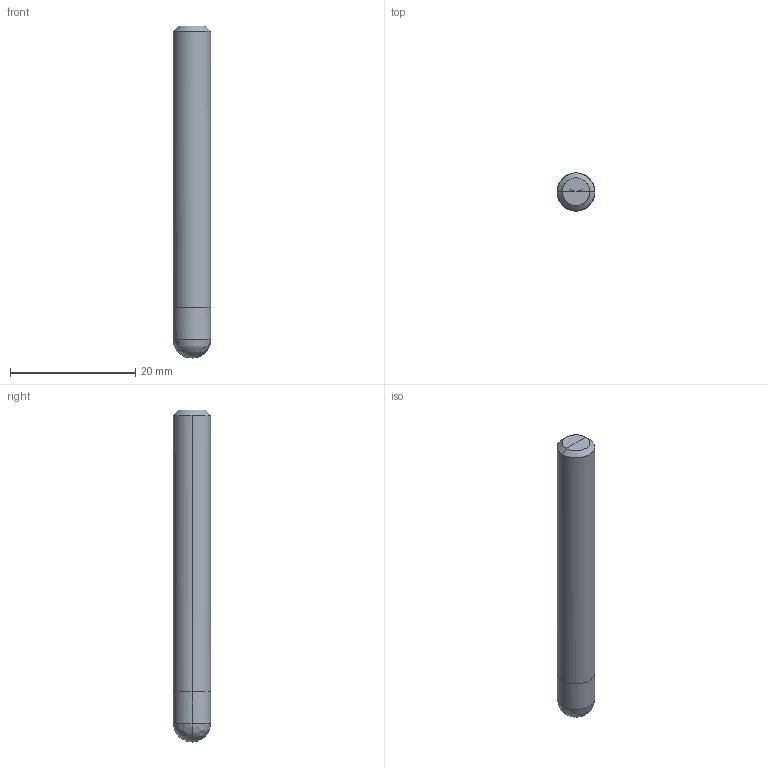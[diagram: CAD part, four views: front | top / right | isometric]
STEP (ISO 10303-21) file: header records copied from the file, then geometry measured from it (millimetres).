
FILE_DESCRIPTION(/* description */ (''),/* implementation_level */ '2;1');
FILE_NAME(/*name*/ '2152-6F',/*time_stamp*/'2021-5-25T14:25:12',/*author*/ ('ISBE GmbH'),/*organization*/ ('ISBE GmbH'),/*preprocessor_version*/ 'STEP IO v1.0',/*originating_system*/ '',/*authorisation*/ '');
FILE_SCHEMA (('AUTOMOTIVE_DESIGN'));
Length unit declared in the file: millimetre
Products named in the file (1): Document
Bounding box: 6 x 5.99 x 53 mm (x, y, z)
Surface area: 1075.7 mm2 (no closed solid volume)
Topology: 0 solids, 14 shells, 14 faces, 58 edges, 52 vertices
Faces by surface type: bspline 14
Entity records: 541 total; most frequent: CARTESIAN_POINT 276, VERTEX_POINT 48, EDGE_CURVE 48, ORIENTED_EDGE 48, DIRECTION 16, EDGE_LOOP 14, FACE_OUTER_BOUND 14, ADVANCED_FACE 14
